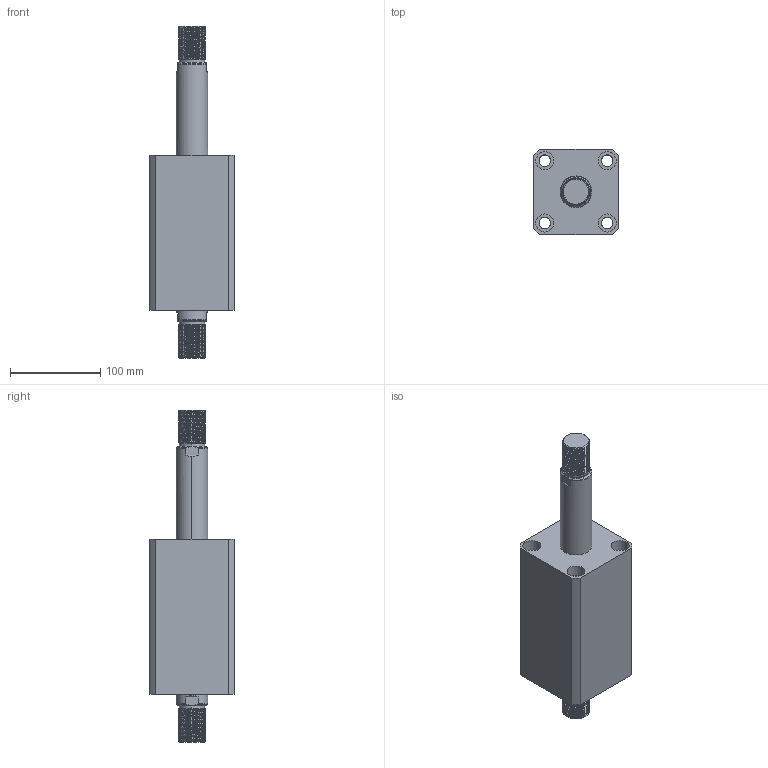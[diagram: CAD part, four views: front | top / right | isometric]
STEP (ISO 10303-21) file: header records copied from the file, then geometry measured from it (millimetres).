
FILE_DESCRIPTION (( 'STEP AP214' ), '1' );
FILE_NAME ('chtb-sw63x90w_asm.STEP', '2018-05-19T03:38:42', ( 'Windows' ), ( 'Microsoft' ), 'SwSTEP 2.0', 'SolidWorks 2015', '' );
FILE_SCHEMA (( 'AUTOMOTIVE_DESIGN' ));
Length unit declared in the file: millimetre
Products named in the file (4): CHTB-SW63X90WHSG; CHTB-SW63X90NBT; CHTB-63QG; chtb-sw63x90w_asm
Assembly tree (3 placements, depth 2):
  chtb-sw63x90w_asm
    CHTB-63QG
    CHTB-SW63X90NBT
    CHTB-SW63X90WHSG
Bounding box: 94 x 94 x 368 mm (x, y, z)
Volume: 1360556.8 mm3; surface area: 213454.6 mm2
Topology: 3 solids, 3 shells, 296 faces, 841 edges, 569 vertices
Faces by surface type: cylinder 206, plane 46, bspline 16, cone 16, torus 12
Entity records: 27380 total; most frequent: CARTESIAN_POINT 20442, ORIENTED_EDGE 1674, DIRECTION 1166, EDGE_CURVE 837, VERTEX_POINT 569, AXIS2_PLACEMENT_3D 453, EDGE_LOOP 334, ADVANCED_FACE 296
